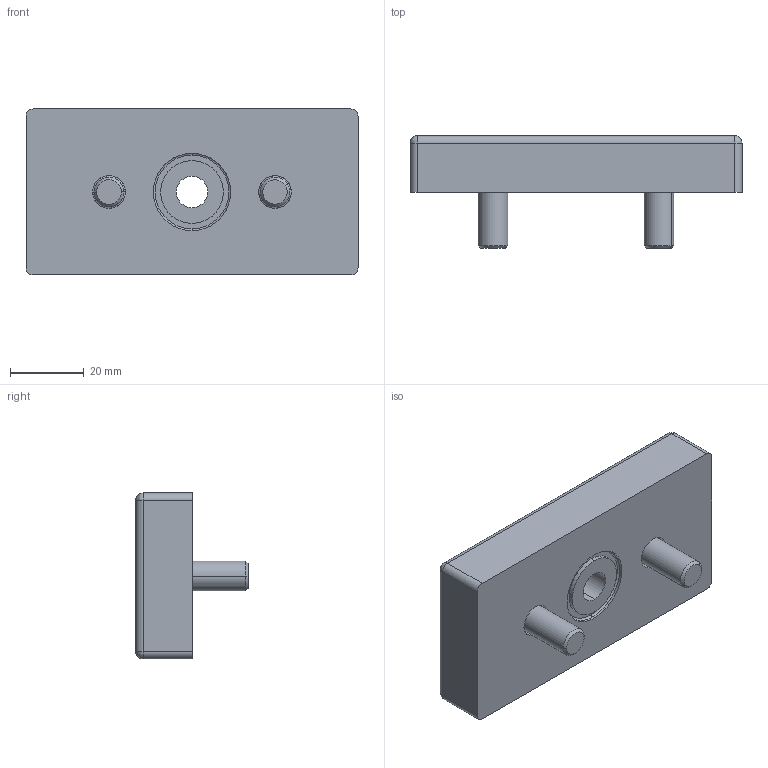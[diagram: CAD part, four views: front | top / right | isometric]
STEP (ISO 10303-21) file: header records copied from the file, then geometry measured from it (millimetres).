
FILE_DESCRIPTION (( 'STEP AP214' ), '1' );
FILE_NAME ('1.5007 Kierrelevy 45x90 M10.STEP', '2025-09-16T07:20:46', ( '' ), ( '' ), 'SwSTEP 2.0', 'SolidWorks 2025', '' );
FILE_SCHEMA (( 'AUTOMOTIVE_DESIGN' ));
Length unit declared in the file: millimetre
Products named in the file (1): 1.5007 Kierrelevy 45x90 M10
Bounding box: 90 x 30.5 x 45 mm (x, y, z)
Volume: 61248 mm3; surface area: 15433.4 mm2
Topology: 3 solids, 3 shells, 94 faces, 206 edges, 118 vertices
Faces by surface type: plane 40, cylinder 30, cone 10, torus 10, sphere 4
Entity records: 3591 total; most frequent: DIRECTION 486, CARTESIAN_POINT 411, ORIENTED_EDGE 396, EDGE_CURVE 198, AXIS2_PLACEMENT_3D 193, VERTEX_POINT 118, EDGE_LOOP 108, LINE 100
